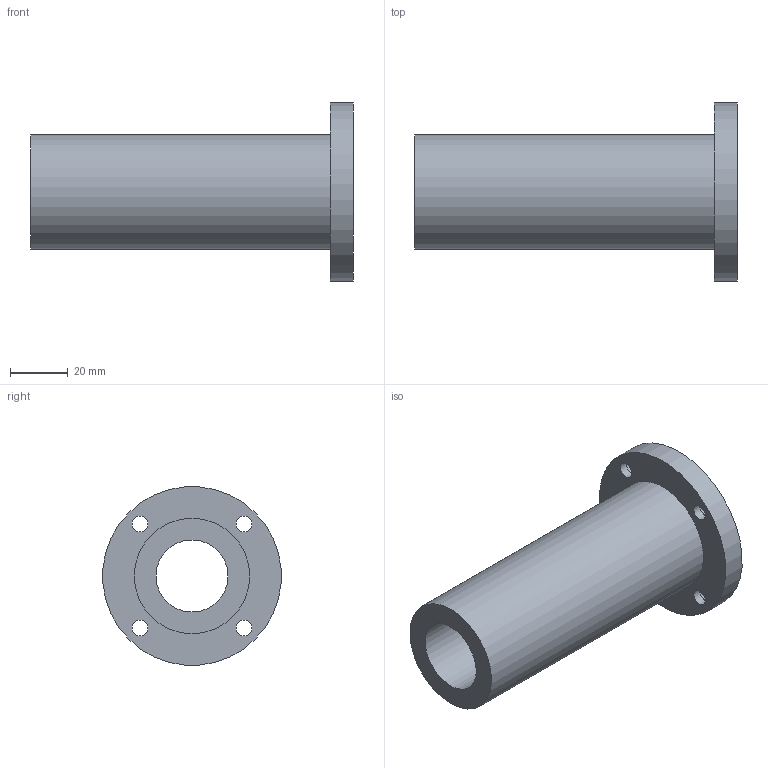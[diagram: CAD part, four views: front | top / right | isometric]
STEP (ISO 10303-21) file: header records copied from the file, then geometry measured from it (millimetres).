
FILE_DESCRIPTION(/* description */ (''),/* implementation_level */ '2;1');
FILE_NAME(/* name */ 'LMF25LUU',/* time_stamp */ '2019-07-03T10:02:57+02:00',/* author */ ('VĂ©gh MĂˇtĂ©'),/* organization */ ('Bearing Kft'),/* preprocessor_version */ 'ST-DEVELOPER v16.7',/* originating_system */ 'DEX',/* authorisation */ $);
FILE_SCHEMA (('AUTOMOTIVE_DESIGN {1 0 10303 214 3 1 1}'));
Length unit declared in the file: millimetre
Products named in the file (1): LMF25LUU
Bounding box: 112 x 61.76 x 61.76 mm (x, y, z)
Volume: 98285.7 mm3; surface area: 29095.8 mm2
Topology: 1 solids, 1 shells, 328 faces, 825 edges, 550 vertices
Faces by surface type: plane 256, bspline 59, cylinder 13
Full cylindrical faces by diameter (mm): 5.5 x4, 9 x4, 25 x1, 40 x1, 62 x1
Entity records: 12685 total; most frequent: CARTESIAN_POINT 5165, ORIENTED_EDGE 1626, DIRECTION 1261, EDGE_CURVE 813, LINE 669, VECTOR 669, VERTEX_POINT 550, EDGE_LOOP 401
